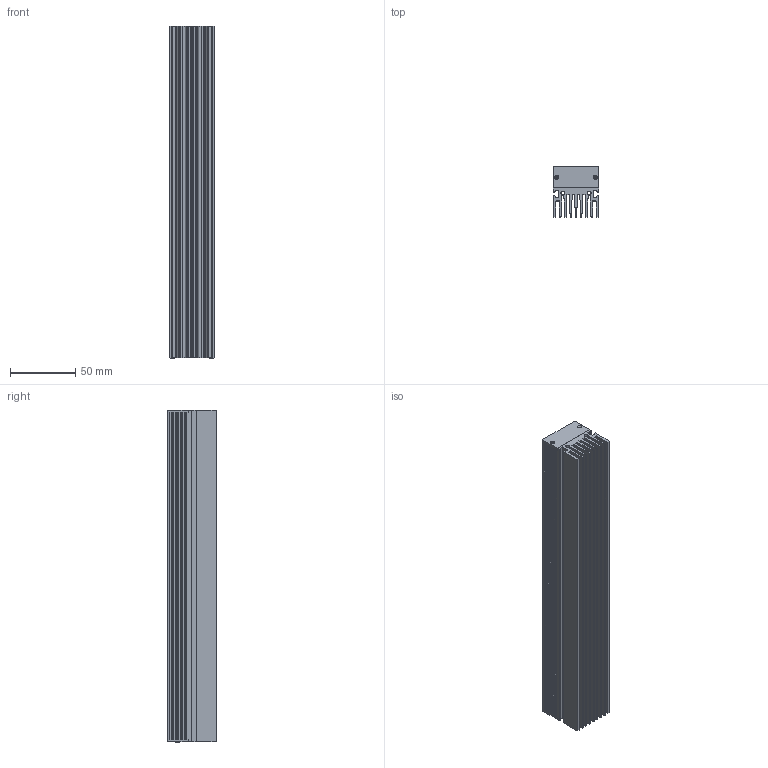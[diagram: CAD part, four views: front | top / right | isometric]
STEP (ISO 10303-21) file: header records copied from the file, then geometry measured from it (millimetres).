
FILE_DESCRIPTION((''),'2;1');
FILE_NAME('HSL','2020-03-25T',('ASUS'),(''),'PRO/ENGINEER BY PARAMETRIC TECHNOLOGY CORPORATION, 2008380','PRO/ENGINEER BY PARAMETRIC TECHNOLOGY CORPORATION, 2008380','');
FILE_SCHEMA(('CONFIG_CONTROL_DESIGN'));
Length unit declared in the file: millimetre
Products named in the file (1): HSL
Bounding box: 35 x 38 x 254 mm (x, y, z)
Volume: 235587.2 mm3; surface area: 122855.8 mm2
Topology: 1 solids, 1 shells, 171 faces, 454 edges, 300 vertices
Faces by surface type: plane 145, cylinder 18, cone 8
Entity records: 5276 total; most frequent: CARTESIAN_POINT 933, ORIENTED_EDGE 908, DIRECTION 836, EDGE_CURVE 454, VECTOR 410, LINE 410, VERTEX_POINT 300, AXIS2_PLACEMENT_3D 213
